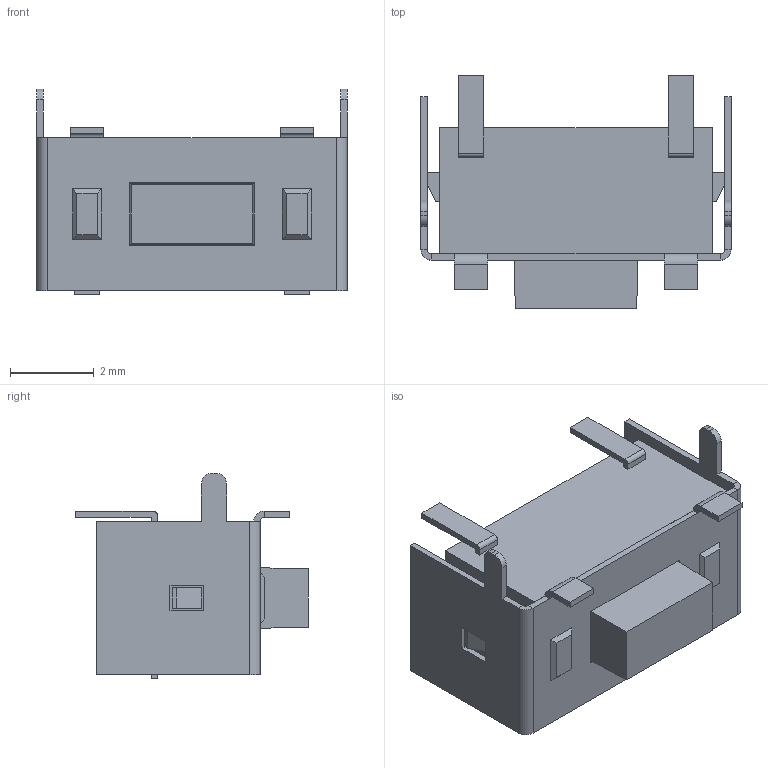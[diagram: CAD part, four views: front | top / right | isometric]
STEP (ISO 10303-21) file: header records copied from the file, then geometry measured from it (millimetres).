
FILE_DESCRIPTION((''),'2;1');
FILE_NAME('JQD3560-B0433-G-1_ASM','2026-04-14T17:18:27',('Admin'),(''),'CREO PARAMETRIC BY PTC INC, 2019224','CREO PARAMETRIC BY PTC INC, 2019224','');
FILE_SCHEMA(('AUTOMOTIVE_DESIGN { 1 0 10303 214 1 1 1 1 }'));
Length unit declared in the file: millimetre
Products named in the file (3): JQD3560-B0433-G-1_01; JQD3560-B0433-G-1_02; JQD3560-B0433-G-1_ASM
Assembly tree (2 placements, depth 2):
  JQD3560-B0433-G-1_ASM
    JQD3560-B0433-G-1_01
    JQD3560-B0433-G-1_02
Bounding box: 7.4 x 5.55 x 4.9 mm (x, y, z)
Volume: 85 mm3; surface area: 239.7 mm2
Topology: 2 solids, 2 shells, 143 faces, 352 edges, 224 vertices
Faces by surface type: plane 129, cylinder 14
Entity records: 5121 total; most frequent: CARTESIAN_POINT 733, ORIENTED_EDGE 704, DIRECTION 680, EDGE_CURVE 352, VECTOR 324, LINE 324, VERTEX_POINT 224, PRESENTATION_STYLE_ASSIGNMENT 196
